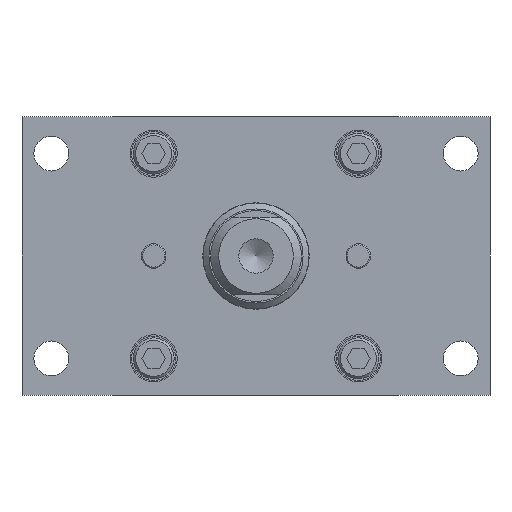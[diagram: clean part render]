
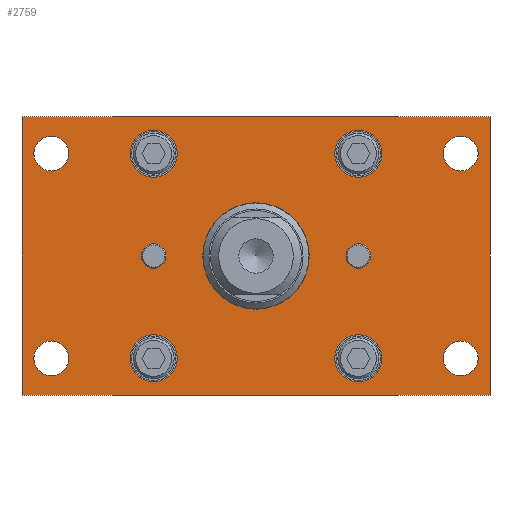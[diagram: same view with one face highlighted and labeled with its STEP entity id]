
A CAD part, front view. The second image highlights one B-rep face of the part: STEP entity #2759.
In plain terms, the highlighted planar face has unit normal (0, -1, 0) as drawn and (0, 0, -1) by its records, which use the part's own axes.
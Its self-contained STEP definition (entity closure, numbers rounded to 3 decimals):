
#160=FACE_BOUND('',#581,.T.);
#161=FACE_BOUND('',#582,.T.);
#162=FACE_BOUND('',#583,.T.);
#163=FACE_BOUND('',#584,.T.);
#164=FACE_BOUND('',#585,.T.);
#165=FACE_BOUND('',#586,.T.);
#166=FACE_BOUND('',#587,.T.);
#167=FACE_BOUND('',#588,.T.);
#168=FACE_BOUND('',#589,.T.);
#169=FACE_BOUND('',#590,.T.);
#170=FACE_BOUND('',#591,.T.);
#248=PLANE('',#3318);
#390=FACE_OUTER_BOUND('',#580,.T.);
#580=EDGE_LOOP('',(#2283,#2284,#2285,#2286));
#581=EDGE_LOOP('',(#2287));
#582=EDGE_LOOP('',(#2288,#2289));
#583=EDGE_LOOP('',(#2290,#2291));
#584=EDGE_LOOP('',(#2292,#2293));
#585=EDGE_LOOP('',(#2294,#2295));
#586=EDGE_LOOP('',(#2296,#2297));
#587=EDGE_LOOP('',(#2298,#2299));
#588=EDGE_LOOP('',(#2300,#2301));
#589=EDGE_LOOP('',(#2302,#2303));
#590=EDGE_LOOP('',(#2304,#2305));
#591=EDGE_LOOP('',(#2306,#2307));
#759=LINE('',#4930,#905);
#763=LINE('',#4938,#909);
#766=LINE('',#4944,#912);
#769=LINE('',#4949,#915);
#905=VECTOR('',#4040,10.);
#909=VECTOR('',#4046,10.);
#912=VECTOR('',#4051,10.);
#915=VECTOR('',#4056,10.);
#1050=CIRCLE('',#3235,12.992);
#1054=CIRCLE('',#3241,3.);
#1055=CIRCLE('',#3242,3.);
#1057=CIRCLE('',#3245,3.);
#1058=CIRCLE('',#3246,3.);
#1065=CIRCLE('',#3256,4.25);
#1066=CIRCLE('',#3257,4.25);
#1068=CIRCLE('',#3260,4.25);
#1069=CIRCLE('',#3261,4.25);
#1071=CIRCLE('',#3264,4.25);
#1072=CIRCLE('',#3265,4.25);
#1074=CIRCLE('',#3268,4.25);
#1075=CIRCLE('',#3269,4.25);
#1083=CIRCLE('',#3282,5.75);
#1084=CIRCLE('',#3283,5.75);
#1089=CIRCLE('',#3291,5.75);
#1090=CIRCLE('',#3292,5.75);
#1095=CIRCLE('',#3300,5.75);
#1096=CIRCLE('',#3301,5.75);
#1101=CIRCLE('',#3309,5.75);
#1102=CIRCLE('',#3310,5.75);
#1301=VERTEX_POINT('',#4777);
#1305=VERTEX_POINT('',#4788);
#1306=VERTEX_POINT('',#4789);
#1308=VERTEX_POINT('',#4796);
#1309=VERTEX_POINT('',#4797);
#1316=VERTEX_POINT('',#4817);
#1317=VERTEX_POINT('',#4818);
#1319=VERTEX_POINT('',#4825);
#1320=VERTEX_POINT('',#4826);
#1322=VERTEX_POINT('',#4833);
#1323=VERTEX_POINT('',#4834);
#1325=VERTEX_POINT('',#4841);
#1326=VERTEX_POINT('',#4842);
#1334=VERTEX_POINT('',#4867);
#1335=VERTEX_POINT('',#4868);
#1340=VERTEX_POINT('',#4884);
#1341=VERTEX_POINT('',#4885);
#1346=VERTEX_POINT('',#4901);
#1347=VERTEX_POINT('',#4902);
#1352=VERTEX_POINT('',#4918);
#1353=VERTEX_POINT('',#4919);
#1355=VERTEX_POINT('',#4928);
#1356=VERTEX_POINT('',#4929);
#1359=VERTEX_POINT('',#4937);
#1361=VERTEX_POINT('',#4943);
#1621=EDGE_CURVE('',#1301,#1301,#1050,.T.);
#1626=EDGE_CURVE('',#1305,#1306,#1054,.T.);
#1627=EDGE_CURVE('',#1306,#1305,#1055,.T.);
#1630=EDGE_CURVE('',#1308,#1309,#1057,.T.);
#1631=EDGE_CURVE('',#1309,#1308,#1058,.T.);
#1640=EDGE_CURVE('',#1316,#1317,#1065,.T.);
#1641=EDGE_CURVE('',#1317,#1316,#1066,.T.);
#1644=EDGE_CURVE('',#1319,#1320,#1068,.T.);
#1645=EDGE_CURVE('',#1320,#1319,#1069,.T.);
#1648=EDGE_CURVE('',#1322,#1323,#1071,.T.);
#1649=EDGE_CURVE('',#1323,#1322,#1072,.T.);
#1652=EDGE_CURVE('',#1325,#1326,#1074,.T.);
#1653=EDGE_CURVE('',#1326,#1325,#1075,.T.);
#1664=EDGE_CURVE('',#1334,#1335,#1083,.T.);
#1665=EDGE_CURVE('',#1335,#1334,#1084,.T.);
#1672=EDGE_CURVE('',#1340,#1341,#1089,.T.);
#1673=EDGE_CURVE('',#1341,#1340,#1090,.T.);
#1680=EDGE_CURVE('',#1346,#1347,#1095,.T.);
#1681=EDGE_CURVE('',#1347,#1346,#1096,.T.);
#1688=EDGE_CURVE('',#1352,#1353,#1101,.T.);
#1689=EDGE_CURVE('',#1353,#1352,#1102,.T.);
#1693=EDGE_CURVE('',#1355,#1356,#759,.T.);
#1697=EDGE_CURVE('',#1359,#1355,#763,.T.);
#1700=EDGE_CURVE('',#1361,#1359,#766,.T.);
#1703=EDGE_CURVE('',#1356,#1361,#769,.T.);
#2283=ORIENTED_EDGE('',*,*,#1703,.F.);
#2284=ORIENTED_EDGE('',*,*,#1693,.F.);
#2285=ORIENTED_EDGE('',*,*,#1697,.F.);
#2286=ORIENTED_EDGE('',*,*,#1700,.F.);
#2287=ORIENTED_EDGE('',*,*,#1621,.T.);
#2288=ORIENTED_EDGE('',*,*,#1626,.T.);
#2289=ORIENTED_EDGE('',*,*,#1627,.T.);
#2290=ORIENTED_EDGE('',*,*,#1630,.T.);
#2291=ORIENTED_EDGE('',*,*,#1631,.T.);
#2292=ORIENTED_EDGE('',*,*,#1640,.T.);
#2293=ORIENTED_EDGE('',*,*,#1641,.T.);
#2294=ORIENTED_EDGE('',*,*,#1644,.T.);
#2295=ORIENTED_EDGE('',*,*,#1645,.T.);
#2296=ORIENTED_EDGE('',*,*,#1648,.T.);
#2297=ORIENTED_EDGE('',*,*,#1649,.T.);
#2298=ORIENTED_EDGE('',*,*,#1652,.T.);
#2299=ORIENTED_EDGE('',*,*,#1653,.T.);
#2300=ORIENTED_EDGE('',*,*,#1664,.T.);
#2301=ORIENTED_EDGE('',*,*,#1665,.T.);
#2302=ORIENTED_EDGE('',*,*,#1672,.T.);
#2303=ORIENTED_EDGE('',*,*,#1673,.T.);
#2304=ORIENTED_EDGE('',*,*,#1680,.T.);
#2305=ORIENTED_EDGE('',*,*,#1681,.T.);
#2306=ORIENTED_EDGE('',*,*,#1688,.T.);
#2307=ORIENTED_EDGE('',*,*,#1689,.T.);
#2759=ADVANCED_FACE('',(#390,#160,#161,#162,#163,#164,#165,#166,#167,#168,
#169,#170),#248,.F.);
#3235=AXIS2_PLACEMENT_3D('',#4778,#3864,#3865);
#3241=AXIS2_PLACEMENT_3D('',#4790,#3877,#3878);
#3242=AXIS2_PLACEMENT_3D('',#4791,#3879,#3880);
#3245=AXIS2_PLACEMENT_3D('',#4798,#3886,#3887);
#3246=AXIS2_PLACEMENT_3D('',#4799,#3888,#3889);
#3256=AXIS2_PLACEMENT_3D('',#4819,#3910,#3911);
#3257=AXIS2_PLACEMENT_3D('',#4820,#3912,#3913);
#3260=AXIS2_PLACEMENT_3D('',#4827,#3919,#3920);
#3261=AXIS2_PLACEMENT_3D('',#4828,#3921,#3922);
#3264=AXIS2_PLACEMENT_3D('',#4835,#3928,#3929);
#3265=AXIS2_PLACEMENT_3D('',#4836,#3930,#3931);
#3268=AXIS2_PLACEMENT_3D('',#4843,#3937,#3938);
#3269=AXIS2_PLACEMENT_3D('',#4844,#3939,#3940);
#3282=AXIS2_PLACEMENT_3D('',#4869,#3968,#3969);
#3283=AXIS2_PLACEMENT_3D('',#4870,#3970,#3971);
#3291=AXIS2_PLACEMENT_3D('',#4886,#3988,#3989);
#3292=AXIS2_PLACEMENT_3D('',#4887,#3990,#3991);
#3300=AXIS2_PLACEMENT_3D('',#4903,#4008,#4009);
#3301=AXIS2_PLACEMENT_3D('',#4904,#4010,#4011);
#3309=AXIS2_PLACEMENT_3D('',#4920,#4028,#4029);
#3310=AXIS2_PLACEMENT_3D('',#4921,#4030,#4031);
#3318=AXIS2_PLACEMENT_3D('',#4952,#4060,#4061);
#3864=DIRECTION('center_axis',(0.,0.,1.));
#3865=DIRECTION('ref_axis',(1.,0.,0.));
#3877=DIRECTION('center_axis',(0.,0.,1.));
#3878=DIRECTION('ref_axis',(-1.,0.,0.));
#3879=DIRECTION('center_axis',(0.,0.,1.));
#3880=DIRECTION('ref_axis',(-1.,0.,0.));
#3886=DIRECTION('center_axis',(0.,0.,1.));
#3887=DIRECTION('ref_axis',(-1.,0.,0.));
#3888=DIRECTION('center_axis',(0.,0.,1.));
#3889=DIRECTION('ref_axis',(-1.,0.,0.));
#3910=DIRECTION('center_axis',(0.,0.,1.));
#3911=DIRECTION('ref_axis',(-1.,0.,0.));
#3912=DIRECTION('center_axis',(0.,0.,1.));
#3913=DIRECTION('ref_axis',(-1.,0.,0.));
#3919=DIRECTION('center_axis',(0.,0.,1.));
#3920=DIRECTION('ref_axis',(-1.,0.,0.));
#3921=DIRECTION('center_axis',(0.,0.,1.));
#3922=DIRECTION('ref_axis',(-1.,0.,0.));
#3928=DIRECTION('center_axis',(0.,0.,1.));
#3929=DIRECTION('ref_axis',(-1.,0.,0.));
#3930=DIRECTION('center_axis',(0.,0.,1.));
#3931=DIRECTION('ref_axis',(-1.,0.,0.));
#3937=DIRECTION('center_axis',(0.,0.,1.));
#3938=DIRECTION('ref_axis',(-1.,0.,0.));
#3939=DIRECTION('center_axis',(0.,0.,1.));
#3940=DIRECTION('ref_axis',(-1.,0.,0.));
#3968=DIRECTION('center_axis',(0.,0.,1.));
#3969=DIRECTION('ref_axis',(-1.,0.,0.));
#3970=DIRECTION('center_axis',(0.,0.,1.));
#3971=DIRECTION('ref_axis',(-1.,0.,0.));
#3988=DIRECTION('center_axis',(0.,0.,1.));
#3989=DIRECTION('ref_axis',(-1.,0.,0.));
#3990=DIRECTION('center_axis',(0.,0.,1.));
#3991=DIRECTION('ref_axis',(-1.,0.,0.));
#4008=DIRECTION('center_axis',(0.,0.,1.));
#4009=DIRECTION('ref_axis',(-1.,0.,0.));
#4010=DIRECTION('center_axis',(0.,0.,1.));
#4011=DIRECTION('ref_axis',(-1.,0.,0.));
#4028=DIRECTION('center_axis',(0.,0.,1.));
#4029=DIRECTION('ref_axis',(-1.,0.,0.));
#4030=DIRECTION('center_axis',(0.,0.,1.));
#4031=DIRECTION('ref_axis',(-1.,0.,0.));
#4040=DIRECTION('',(-1.,0.,0.));
#4046=DIRECTION('',(0.,1.,0.));
#4051=DIRECTION('',(1.,0.,0.));
#4056=DIRECTION('',(0.,-1.,0.));
#4060=DIRECTION('center_axis',(0.,0.,1.));
#4061=DIRECTION('ref_axis',(1.,0.,0.));
#4777=CARTESIAN_POINT('',(-12.992,0.,0.));
#4778=CARTESIAN_POINT('Origin',(0.,0.,0.));
#4788=CARTESIAN_POINT('',(-28.,0.,0.));
#4789=CARTESIAN_POINT('',(-22.,0.,0.));
#4790=CARTESIAN_POINT('Origin',(-25.,0.,0.));
#4791=CARTESIAN_POINT('Origin',(-25.,0.,0.));
#4796=CARTESIAN_POINT('',(22.,0.,0.));
#4797=CARTESIAN_POINT('',(28.,0.,0.));
#4798=CARTESIAN_POINT('Origin',(25.,0.,0.));
#4799=CARTESIAN_POINT('Origin',(25.,0.,0.));
#4817=CARTESIAN_POINT('',(45.75,25.,0.));
#4818=CARTESIAN_POINT('',(54.25,25.,0.));
#4819=CARTESIAN_POINT('Origin',(50.,25.,0.));
#4820=CARTESIAN_POINT('Origin',(50.,25.,0.));
#4825=CARTESIAN_POINT('',(-54.25,-25.,0.));
#4826=CARTESIAN_POINT('',(-45.75,-25.,0.));
#4827=CARTESIAN_POINT('Origin',(-50.,-25.,0.));
#4828=CARTESIAN_POINT('Origin',(-50.,-25.,0.));
#4833=CARTESIAN_POINT('',(-54.25,25.,0.));
#4834=CARTESIAN_POINT('',(-45.75,25.,0.));
#4835=CARTESIAN_POINT('Origin',(-50.,25.,0.));
#4836=CARTESIAN_POINT('Origin',(-50.,25.,0.));
#4841=CARTESIAN_POINT('',(45.75,-25.,0.));
#4842=CARTESIAN_POINT('',(54.25,-25.,0.));
#4843=CARTESIAN_POINT('Origin',(50.,-25.,0.));
#4844=CARTESIAN_POINT('Origin',(50.,-25.,0.));
#4867=CARTESIAN_POINT('',(19.25,25.,0.));
#4868=CARTESIAN_POINT('',(30.75,25.,0.));
#4869=CARTESIAN_POINT('Origin',(25.,25.,0.));
#4870=CARTESIAN_POINT('Origin',(25.,25.,0.));
#4884=CARTESIAN_POINT('',(-30.75,-25.,0.));
#4885=CARTESIAN_POINT('',(-19.25,-25.,0.));
#4886=CARTESIAN_POINT('Origin',(-25.,-25.,0.));
#4887=CARTESIAN_POINT('Origin',(-25.,-25.,0.));
#4901=CARTESIAN_POINT('',(19.25,-25.,0.));
#4902=CARTESIAN_POINT('',(30.75,-25.,0.));
#4903=CARTESIAN_POINT('Origin',(25.,-25.,0.));
#4904=CARTESIAN_POINT('Origin',(25.,-25.,0.));
#4918=CARTESIAN_POINT('',(-30.75,25.,0.));
#4919=CARTESIAN_POINT('',(-19.25,25.,0.));
#4920=CARTESIAN_POINT('Origin',(-25.,25.,0.));
#4921=CARTESIAN_POINT('Origin',(-25.,25.,0.));
#4928=CARTESIAN_POINT('',(57.15,34.,0.));
#4929=CARTESIAN_POINT('',(-57.15,34.,0.));
#4930=CARTESIAN_POINT('',(57.15,34.,0.));
#4937=CARTESIAN_POINT('',(57.15,-34.,0.));
#4938=CARTESIAN_POINT('',(57.15,-34.,0.));
#4943=CARTESIAN_POINT('',(-57.15,-34.,0.));
#4944=CARTESIAN_POINT('',(-57.15,-34.,0.));
#4949=CARTESIAN_POINT('',(-57.15,34.,0.));
#4952=CARTESIAN_POINT('Origin',(0.,0.,
0.));
